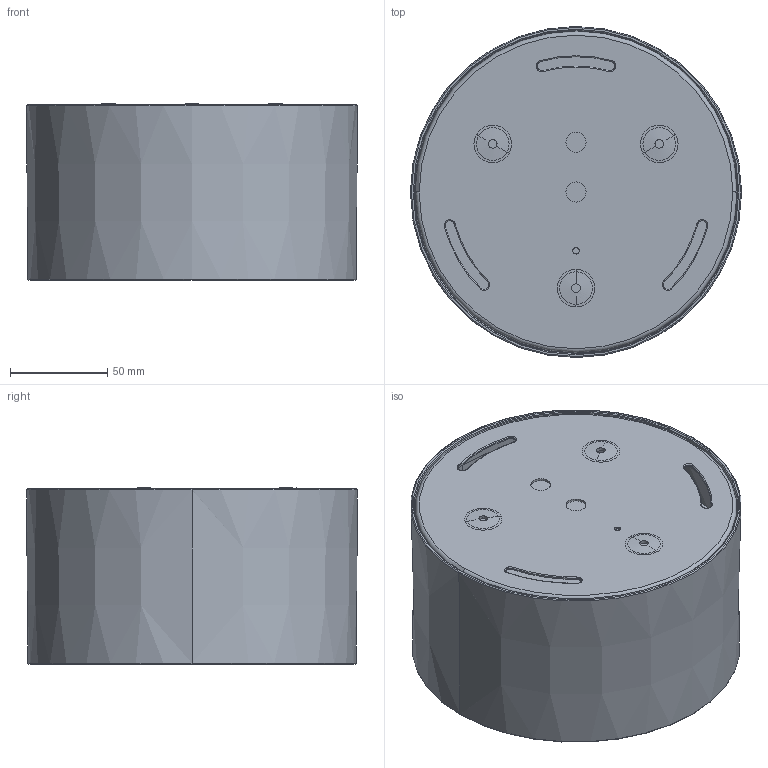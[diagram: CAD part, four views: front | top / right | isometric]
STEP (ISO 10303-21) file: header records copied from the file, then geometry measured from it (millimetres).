
FILE_DESCRIPTION((''),'2;1');
FILE_NAME('KL-D170-24W_ASM','2025-11-20T11:31:40',('Administrator'),(''),'CREO PARAMETRIC BY PTC INC, 2021164','CREO PARAMETRIC BY PTC INC, 2021164','');
FILE_SCHEMA(('CONFIG_CONTROL_DESIGN','SHAPE_APPEARANCE_LAYERS_GROUPS'));
Length unit declared in the file: millimetre
Products named in the file (5): PRT0001_9; PRT0002_2; PRT0003_7; ASM0001_ASM_6_ASM; KL-D170-24W_ASM
Assembly tree (4 placements, depth 3):
  KL-D170-24W_ASM
    ASM0001_ASM_6_ASM
      PRT0001_9
      PRT0002_2
      PRT0003_7
Bounding box: 169.99 x 169.99 x 90.56 mm (x, y, z)
Volume: 677302 mm3; surface area: 216698.4 mm2
Topology: 3 solids, 3 shells, 116 faces, 329 edges, 221 vertices
Faces by surface type: torus 44, cylinder 40, plane 14, cone 6, sphere 6, bspline 6
Entity records: 6050 total; most frequent: DIRECTION 844, CARTESIAN_POINT 834, ORIENTED_EDGE 646, PRESENTATION_STYLE_ASSIGNMENT 438, STYLED_ITEM 438, AXIS2_PLACEMENT_3D 399, CURVE_STYLE 323, EDGE_CURVE 323
